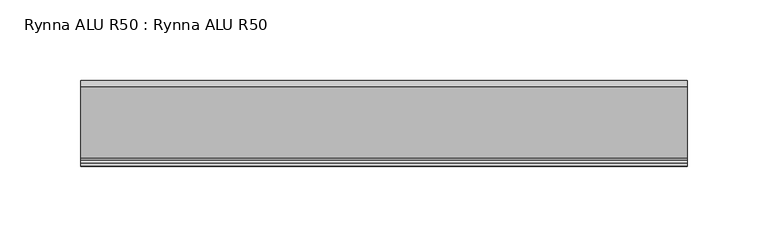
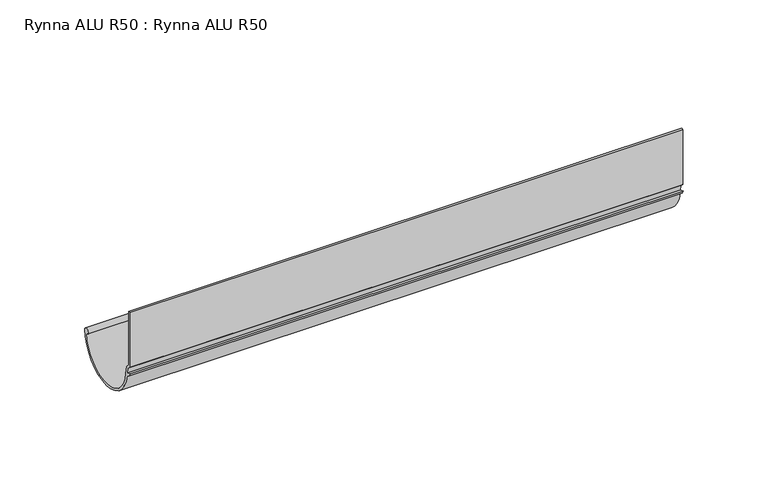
"""IFC4 building model written with IfcOpenShell, lengths in millimetres: proxy geometry, Rynna ALU R50 : Rynna ALU R50."""

import ifcopenshell
import ifcopenshell.guid

model = None  # the IFC model being written
_history = None  # IfcOwnerHistory: only IFC2X3 demands one
_inside = {}  # id of a spatial element -> (the spatial element, [elements in it])
_under = {}  # id of a project, library or spatial element -> (it, [spatial elements below it])
_declared = {}  # id of a project -> (the project, [libraries it declares])
_typed = {}  # id of a type object -> (the type object, [elements of that type])
_made_of = {}  # id of a material, layer set ... -> (it, [elements and type objects made of it])


def new_model(schema):
    """Start an empty IFC model of exactly this schema.

    Asked for "IFC4X3", IfcOpenShell would pick the latest addendum, in which some entities
    have other attributes; the version numbers below select the first issue.
    IFC2X3 requires an IfcOwnerHistory on every rooted entity: one is made here for all.
    """
    global model, _history
    if schema == "IFC4X3":
        model = ifcopenshell.file(schema_version=(4, 3, 0, 0))
    else:
        model = ifcopenshell.file(schema=schema)
    _inside.clear()
    _under.clear()
    _declared.clear()
    _typed.clear()
    _made_of.clear()
    _history = None
    if model.schema == "IFC2X3":
        org = make("IfcOrganization", Name="unknown")
        user = make(
            "IfcPersonAndOrganization",
            ThePerson=make("IfcPerson", FamilyName="unknown"),
            TheOrganization=org,
        )
        app = make(
            "IfcApplication",
            ApplicationDeveloper=org,
            Version="unknown",
            ApplicationFullName="unknown",
            ApplicationIdentifier="unknown",
        )
        _history = make(
            "IfcOwnerHistory",
            OwningUser=user,
            OwningApplication=app,
            ChangeAction="ADDED",
            CreationDate=0,
        )
    return model


def make(cls, **values):
    """One entity of the class cls with the attributes given. An attribute that is None is left unset."""
    return model.create_entity(
        cls, **{name: value for name, value in values.items() if value is not None}
    )


def rooted(cls, **values):
    """An entity with a GlobalId (a new one), such as an element, a storey or a relation."""
    return make(cls, GlobalId=ifcopenshell.guid.new(), OwnerHistory=_history, **values)


def si_unit(unit_type, name, prefix=None):
    """IfcSIUnit, for example si_unit("LENGTHUNIT", "METRE", prefix="MILLI")."""
    return make("IfcSIUnit", UnitType=unit_type, Prefix=prefix, Name=name)


def assignment(units):
    """IfcUnitAssignment: the units of a project."""
    return None if units is None else make("IfcUnitAssignment", Units=units)


def point(xyz):
    """IfcCartesianPoint."""
    return None if xyz is None else make("IfcCartesianPoint", Coordinates=xyz)


def direction(xyz):
    """IfcDirection."""
    return None if xyz is None else make("IfcDirection", DirectionRatios=xyz)


def frame(location, z_axis=None, x_axis=None):
    """IfcAxis2Placement3D, a coordinate frame: its origin and axes. An axis left out is left unset."""
    return make(
        "IfcAxis2Placement3D",
        Location=point(location),
        Axis=direction(z_axis),
        RefDirection=direction(x_axis),
    )


def frame_2d(location, x_axis=None):
    """IfcAxis2Placement2D, a coordinate frame in the plane: its origin and x axis."""
    return make(
        "IfcAxis2Placement2D", Location=point(location), RefDirection=direction(x_axis)
    )


def origin():
    """The frame at (0, 0, 0) with its axes left unset."""
    return frame((0.0, 0.0, 0.0))


def place(relative_to, where):
    """IfcLocalPlacement: puts the frame where relative to a parent placement (None: the world)."""
    return make(
        "IfcLocalPlacement", PlacementRelTo=relative_to, RelativePlacement=where
    )


def context(
    kind, dimensions, precision=None, world=None, true_north=None, identifier=None
):
    """IfcGeometricRepresentationContext, for example the 3D "Model" context."""
    return make(
        "IfcGeometricRepresentationContext",
        ContextIdentifier=identifier,
        ContextType=kind,
        CoordinateSpaceDimension=dimensions,
        Precision=precision,
        WorldCoordinateSystem=world,
        TrueNorth=true_north,
    )


def project(units=None, contexts=None):
    """IfcProject with its units and contexts."""
    return rooted(
        "IfcProject",
        Name="project",
        RepresentationContexts=contexts,
        UnitsInContext=assignment(units),
    )


def spatial(cls, under=None, at=None, **own):
    """A site, building, storey or space (cls), placed at a placement, below another one or the project."""
    s = rooted(cls, ObjectPlacement=at, **own)
    if under is not None:
        _under.setdefault(under.id(), (under, []))[1].append(s)
    return s


def polyline(points):
    """IfcPolyline through the points."""
    return make("IfcPolyline", Points=[point(p) for p in points])


def circle_curve(where, radius):
    """IfcCircle in the frame where."""
    return make("IfcCircle", Position=where, Radius=radius)


def trimmed(basis, trim1, trim2, sense, master):
    """IfcTrimmedCurve: the piece of a basis curve between two trims."""
    return make(
        "IfcTrimmedCurve",
        BasisCurve=basis,
        Trim1=trim1,
        Trim2=trim2,
        SenseAgreement=sense,
        MasterRepresentation=master,
    )


def segment(curve, same_sense, transition):
    """IfcCompositeCurveSegment."""
    return make(
        "IfcCompositeCurveSegment",
        Transition=transition,
        SameSense=same_sense,
        ParentCurve=curve,
    )


def composite_curve(segments, self_intersect=None):
    """IfcCompositeCurve: segments joined end to end."""
    return make("IfcCompositeCurve", Segments=segments, SelfIntersect=self_intersect)


def outline(outer, holes=None, kind="AREA"):
    """IfcArbitraryClosedProfileDef: a profile drawn as a closed curve; with holes, ...WithVoids."""
    if holes is None:
        return make("IfcArbitraryClosedProfileDef", ProfileType=kind, OuterCurve=outer)
    return make(
        "IfcArbitraryProfileDefWithVoids",
        ProfileType=kind,
        OuterCurve=outer,
        InnerCurves=holes,
    )


def extrude(swept, where, along, depth):
    """IfcExtrudedAreaSolid: the profile swept, set in the frame where, extruded along a direction by depth."""
    return make(
        "IfcExtrudedAreaSolid",
        SweptArea=swept,
        Position=where,
        ExtrudedDirection=direction(along),
        Depth=depth,
    )


def shape(context_of_items, identifier, shape_type, items):
    """IfcShapeRepresentation: the items that make up one representation, for example the "Body"."""
    return make(
        "IfcShapeRepresentation",
        ContextOfItems=context_of_items,
        RepresentationIdentifier=identifier,
        RepresentationType=shape_type,
        Items=items,
    )


def source(mapping_origin, context_of_items, identifier, shape_type, items):
    """IfcRepresentationMap: a shape defined once, which mapped items show again and again."""
    return make(
        "IfcRepresentationMap",
        MappingOrigin=mapping_origin,
        MappedRepresentation=shape(context_of_items, identifier, shape_type, items),
    )


def transform(
    local_origin,
    x_axis=None,
    y_axis=None,
    z_axis=None,
    scale=None,
    scale2=None,
    scale3=None,
    uniform=True,
):
    """IfcCartesianTransformationOperator3D, or its non-uniform kind. x_axis, y_axis, z_axis: its Axis1, 2, 3."""
    if uniform:
        return make(
            "IfcCartesianTransformationOperator3D",
            Axis1=direction(x_axis),
            Axis2=direction(y_axis),
            LocalOrigin=point(local_origin),
            Scale=scale,
            Axis3=direction(z_axis),
        )
    return make(
        "IfcCartesianTransformationOperator3DnonUniform",
        Axis1=direction(x_axis),
        Axis2=direction(y_axis),
        LocalOrigin=point(local_origin),
        Scale=scale,
        Axis3=direction(z_axis),
        Scale2=scale2,
        Scale3=scale3,
    )


def mapped(mapping_source, mapping_target):
    """IfcMappedItem: shows the shape of a source again, moved by a transform."""
    return make(
        "IfcMappedItem", MappingSource=mapping_source, MappingTarget=mapping_target
    )


def made_of(thing, what):
    """Note that an element or type object is made of a material, layer set ...; save() writes the relation."""
    if what is not None:
        _made_of.setdefault(what.id(), (what, []))[1].append(thing)
    return thing


def element(
    cls,
    number,
    at=None,
    inside=None,
    cuts=None,
    type_object=None,
    material=None,
    context=None,
    identifier="Body",
    shape_type=None,
    held_by="IfcProductDefinitionShape",
    body=None,
    shapes=None,
    **own,
):
    """One element of the class cls, such as IfcWall. Its Tag is "e" and its number.

    at: its placement. inside: the storey or other place that contains it. cuts: it is an
    opening in that element (IfcRelVoidsElement). A single representation is given by context,
    identifier, shape_type and body (its items); several are given by shapes. held_by: the class
    of the entity that holds the representations. save() writes the other relations.
    """
    e = rooted(cls, Tag="e%d" % number, ObjectPlacement=at, **own)
    if body is not None:
        shapes = [shape(context, identifier, shape_type, body)]
    if shapes is not None:
        e.Representation = make(held_by, Representations=shapes)
    if inside is not None:
        _inside.setdefault(inside.id(), (inside, []))[1].append(e)
    if cuts is not None:
        rooted(
            "IfcRelVoidsElement", RelatingBuildingElement=cuts, RelatedOpeningElement=e
        )
    if type_object is not None:
        _typed.setdefault(type_object.id(), (type_object, []))[1].append(e)
    return made_of(e, material)


def aggregate(whole, parts):
    """IfcRelAggregates: a whole, such as a stair, and the parts it consists of."""
    return rooted("IfcRelAggregates", RelatingObject=whole, RelatedObjects=parts)


def save(model, path):
    """Write the relations noted so far, then the file.

    IfcRelAggregates (storeys below a building ...), IfcRelContainedInSpatialStructure (elements
    in a storey), IfcRelDefinesByType, IfcRelAssociatesMaterial and IfcRelDeclares: one each for
    every whole, place, type object, material and project.
    """
    for whole, parts in _under.values():
        aggregate(whole, parts)
    for where, things in _inside.values():
        rooted(
            "IfcRelContainedInSpatialStructure",
            RelatedElements=things,
            RelatingStructure=where,
        )
    for kind, things in _typed.values():
        rooted("IfcRelDefinesByType", RelatedObjects=things, RelatingType=kind)
    for what, things in _made_of.values():
        rooted("IfcRelAssociatesMaterial", RelatedObjects=things, RelatingMaterial=what)
    for by, libraries in _declared.values():
        rooted("IfcRelDeclares", RelatingContext=by, RelatedDefinitions=libraries)
    model.write(path)


def rynna_alu_r50_rynna_alu_r50_f85862a3(model_context):
    return source(origin(), model_context, "Body", "SweptSolid", [
        extrude(outline(composite_curve([segment(polyline([(-0.6978396, 0.0), (0.7021617, 0.0), (0.7021617, -38.7702547), (3.0707013, -41.065916), (3.9370468, -46.8196069)]), True, "CONTINUOUS"), segment(trimmed(circle_curve(frame_2d((27.3646611, -44.302303)), 23.5624686), [point((3.9370468, -46.8196069))], [point((50.8512717, -46.1914952))], True, "CARTESIAN"), True, "CONTINUOUS"), segment(trimmed(circle_curve(frame_2d((50.3771937, -44.3000011)), 1.95), [point((50.8512717, -46.1914952))], [point((52.3271923, -44.302303))], False, "CARTESIAN"), True, "CONTINUOUS"), segment(trimmed(circle_curve(frame_2d((27.3646611, -44.302303)), 24.9625312), [point((52.3271923, -44.302303))], [point((2.6292486, -47.6619658))], False, "CARTESIAN"), True, "CONTINUOUS"), segment(polyline([(2.6292486, -47.6619658), (-0.1767814, -46.0765907), (-0.9565767, -44.1281649), (2.328284, -45.5225054), (1.8149767, -41.8701356), (-0.6978396, -39.5252625), (-0.6978396, 0.0)]), True, "CONTINUOUS")], self_intersect=False)), frame((-188.153207, 0.0, 0.0), z_axis=(1.0, 0.0, 0.0), x_axis=(0.0, 1.0, 0.0)), (0.0, 0.0, 1.0), 376.3064141),
    ])


if __name__ == "__main__":
    model = new_model("IFC4")
    model_context = context("Model", 3, world=origin())
    ifc_project = project(units=[si_unit("LENGTHUNIT", "METRE", prefix="MILLI")], contexts=[model_context])
    site = spatial("IfcSite", under=ifc_project)
    building = spatial("IfcBuilding", under=site)
    placement = place(None, origin())
    rynna_alu_r50_rynna_alu_r50_shape = rynna_alu_r50_rynna_alu_r50_f85862a3(model_context)
    element("IfcBuildingElementProxy", 1, Name="Rynna ALU R50 : Rynna ALU R50", ObjectType="Rynna ALU R50 : Rynna ALU R50", at=placement, inside=building, context=model_context, shape_type="MappedRepresentation", body=[
        mapped(rynna_alu_r50_rynna_alu_r50_shape, transform((0.0, 0.0, 0.0), x_axis=(1.0, 0.0, 0.0), y_axis=(0.0, 1.0, 0.0), z_axis=(0.0, 0.0, 1.0))),
    ])
    save(model, "model.ifc")
